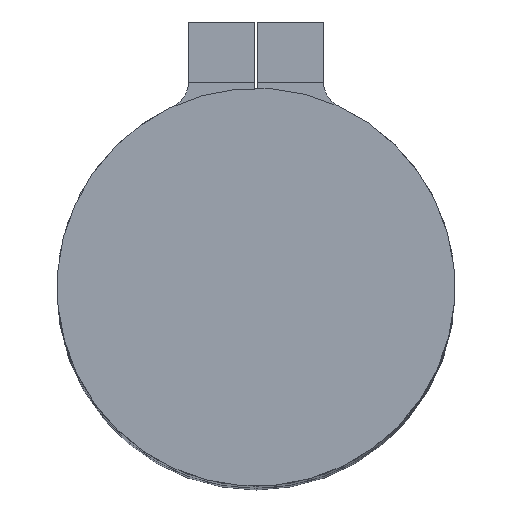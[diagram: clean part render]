
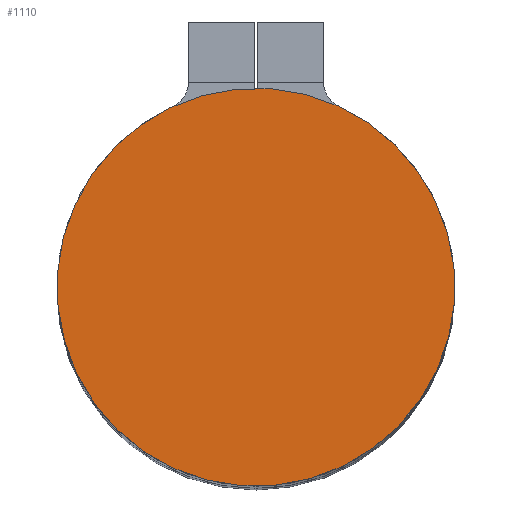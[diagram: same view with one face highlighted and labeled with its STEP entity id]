
A CAD part, top view. The second image highlights one B-rep face of the part: STEP entity #1110.
In plain terms, the highlighted planar face has unit normal (0, 0, 1) as drawn and (0, 1, 0) by its records, which use the part's own axes.
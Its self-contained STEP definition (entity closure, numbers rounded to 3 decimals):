
#17 = DIRECTION ( 'NONE',  ( 0., 0., -1. ) ) ;
#125 = CARTESIAN_POINT ( 'NONE',  ( 0., 86.5, 0. ) ) ;
#253 = CARTESIAN_POINT ( 'NONE',  ( 0., 86.5, 0. ) ) ;
#267 = PLANE ( 'NONE',  #1376 ) ;
#273 = FACE_OUTER_BOUND ( 'NONE', #719, .T. ) ;
#492 = VERTEX_POINT ( 'NONE', #750 ) ;
#512 = AXIS2_PLACEMENT_3D ( 'NONE', #125, #1001, #17 ) ;
#573 = CARTESIAN_POINT ( 'NONE',  ( 0., 86.5, 7.5 ) ) ;
#584 = ORIENTED_EDGE ( 'NONE', *, *, #1207, .F. ) ;
#719 = EDGE_LOOP ( 'NONE', ( #584, #779 ) ) ;
#750 = CARTESIAN_POINT ( 'NONE',  ( 0., 86.5, -7.5 ) ) ;
#779 = ORIENTED_EDGE ( 'NONE', *, *, #1167, .F. ) ;
#854 = DIRECTION ( 'NONE',  ( 0., 0., 1. ) ) ;
#878 = DIRECTION ( 'NONE',  ( 0., 1., 0. ) ) ;
#882 = VERTEX_POINT ( 'NONE', #573 ) ;
#939 = AXIS2_PLACEMENT_3D ( 'NONE', #253, #1087, #987 ) ;
#987 = DIRECTION ( 'NONE',  ( 0., 0., -1. ) ) ;
#1001 = DIRECTION ( 'NONE',  ( 0., -1., 0. ) ) ;
#1061 = CIRCLE ( 'NONE', #939, 7.5 ) ;
#1087 = DIRECTION ( 'NONE',  ( 0., -1., 0. ) ) ;
#1110 = ADVANCED_FACE ( 'NONE', ( #273 ), #267, .T. ) ;
#1167 = EDGE_CURVE ( 'NONE', #882, #492, #1061, .T. ) ;
#1176 = CIRCLE ( 'NONE', #512, 7.5 ) ;
#1202 = CARTESIAN_POINT ( 'NONE',  ( 0., 86.5, 0. ) ) ;
#1207 = EDGE_CURVE ( 'NONE', #492, #882, #1176, .T. ) ;
#1376 = AXIS2_PLACEMENT_3D ( 'NONE', #1202, #878, #854 ) ;
